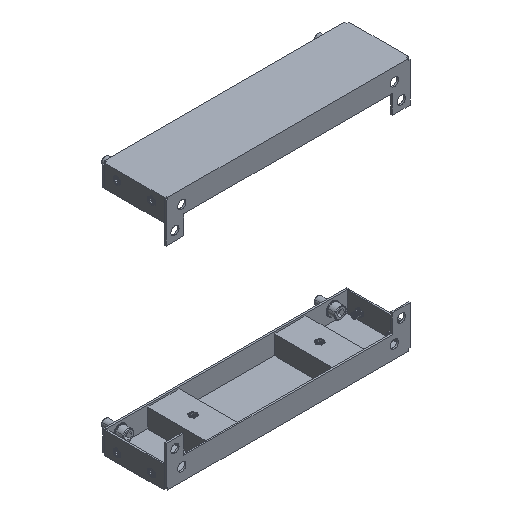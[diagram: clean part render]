
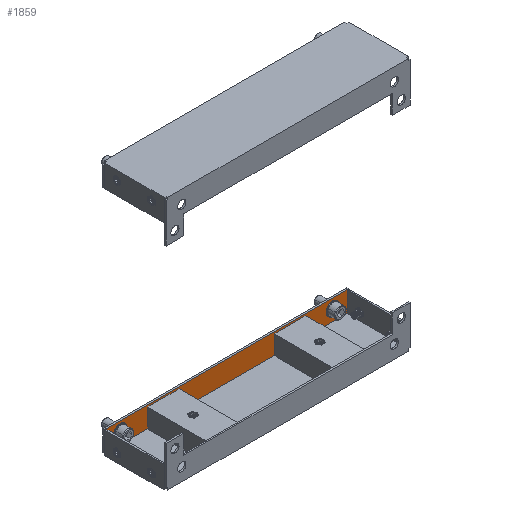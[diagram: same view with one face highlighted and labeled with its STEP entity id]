
A CAD part, isometric view. The second image highlights one B-rep face of the part: STEP entity #1859.
In plain terms, the highlighted planar face has unit normal (0, -1, 0).
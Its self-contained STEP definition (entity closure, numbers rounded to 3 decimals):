
#6 = CIRCLE ( 'NONE', #5628, 6.5 ) ;
#20 = AXIS2_PLACEMENT_3D ( 'NONE', #1726, #6399, #2812 ) ;
#135 = CARTESIAN_POINT ( 'NONE',  ( 167.75, 47.5, 11.7 ) ) ;
#177 = VERTEX_POINT ( 'NONE', #1432 ) ;
#201 = VERTEX_POINT ( 'NONE', #9705 ) ;
#292 = CARTESIAN_POINT ( 'NONE',  ( -189.845, 47.5, 0.402 ) ) ;
#361 = CARTESIAN_POINT ( 'NONE',  ( -192.75, 47.5, 0.6 ) ) ;
#389 = LINE ( 'NONE', #5062, #11581 ) ;
#395 = CARTESIAN_POINT ( 'NONE',  ( 167.75, 47.5, 18.2 ) ) ;
#540 = CARTESIAN_POINT ( 'NONE',  ( -189.896, 47.5, 0.6 ) ) ;
#577 = ORIENTED_EDGE ( 'NONE', *, *, #4431, .T. ) ;
#771 = CARTESIAN_POINT ( 'NONE',  ( -167.75, 47.5, 18.2 ) ) ;
#1030 = CARTESIAN_POINT ( 'NONE',  ( -167.75, 47.5, 11.7 ) ) ;
#1283 = DIRECTION ( 'NONE',  ( 0., 0., 1. ) ) ;
#1432 = CARTESIAN_POINT ( 'NONE',  ( 189.896, 47.5, 0.6 ) ) ;
#1640 = FACE_BOUND ( 'NONE', #7457, .T. ) ;
#1712 = VECTOR ( 'NONE', #12051, 1000. ) ;
#1726 = CARTESIAN_POINT ( 'NONE',  ( 167.75, 47.5, 18.2 ) ) ;
#1755 = LINE ( 'NONE', #9778, #1712 ) ;
#1777 = DIRECTION ( 'NONE',  ( 0., -1., 0. ) ) ;
#1859 = ADVANCED_FACE ( 'NONE', ( #7685, #1640, #13324 ), #5085, .T. ) ;
#2010 = ORIENTED_EDGE ( 'NONE', *, *, #3354, .F. ) ;
#2072 = DIRECTION ( 'NONE',  ( 1., 0., 0. ) ) ;
#2147 = VECTOR ( 'NONE', #2072, 1000. ) ;
#2150 = CARTESIAN_POINT ( 'NONE',  ( 189.845, 47.5, 0.402 ) ) ;
#2430 = ORIENTED_EDGE ( 'NONE', *, *, #3142, .F. ) ;
#2812 = DIRECTION ( 'NONE',  ( 0., 0., -1. ) ) ;
#3142 = EDGE_CURVE ( 'NONE', #177, #5147, #6576, .T. ) ;
#3354 = EDGE_CURVE ( 'NONE', #5147, #15070, #11078, .T. ) ;
#3356 = ORIENTED_EDGE ( 'NONE', *, *, #13869, .T. ) ;
#3614 = EDGE_CURVE ( 'NONE', #7896, #201, #5046, .T. ) ;
#3652 = CARTESIAN_POINT ( 'NONE',  ( 189.773, 47.5, 0. ) ) ;
#3681 = CARTESIAN_POINT ( 'NONE',  ( -189.773, 47.5, 0. ) ) ;
#4000 = DIRECTION ( 'NONE',  ( 0., 0., -1. ) ) ;
#4103 = ORIENTED_EDGE ( 'NONE', *, *, #14702, .F. ) ;
#4132 = DIRECTION ( 'NONE',  ( 0., 1., 0. ) ) ;
#4179 = VECTOR ( 'NONE', #7558, 1000. ) ;
#4279 = DIRECTION ( 'NONE',  ( 0., 0., -1. ) ) ;
#4400 = CARTESIAN_POINT ( 'NONE',  ( -167.75, 47.5, 24.7 ) ) ;
#4431 = EDGE_CURVE ( 'NONE', #177, #7896, #389, .T. ) ;
#4507 = VECTOR ( 'NONE', #13371, 1000. ) ;
#4514 = CARTESIAN_POINT ( 'NONE',  ( 189.896, 47.5, 0.6 ) ) ;
#4524 = VECTOR ( 'NONE', #1283, 1000. ) ;
#4551 = CARTESIAN_POINT ( 'NONE',  ( -167.75, 47.5, 18.2 ) ) ;
#4671 = ORIENTED_EDGE ( 'NONE', *, *, #9797, .F. ) ;
#5046 = LINE ( 'NONE', #10528, #4524 ) ;
#5062 = CARTESIAN_POINT ( 'NONE',  ( 189.896, 47.5, 0.6 ) ) ;
#5085 = PLANE ( 'NONE',  #5701 ) ;
#5147 = VERTEX_POINT ( 'NONE', #3652 ) ;
#5202 = VERTEX_POINT ( 'NONE', #1030 ) ;
#5370 = DIRECTION ( 'NONE',  ( 0., -1., 0. ) ) ;
#5590 = CARTESIAN_POINT ( 'NONE',  ( 189.871, 47.5, 0.501 ) ) ;
#5619 = DIRECTION ( 'NONE',  ( 0., 1., 0. ) ) ;
#5628 = AXIS2_PLACEMENT_3D ( 'NONE', #771, #4132, #4279 ) ;
#5690 = VERTEX_POINT ( 'NONE', #135 ) ;
#5701 = AXIS2_PLACEMENT_3D ( 'NONE', #9828, #5370, #9746 ) ;
#5795 = EDGE_LOOP ( 'NONE', ( #4103, #7385 ) ) ;
#5852 = CARTESIAN_POINT ( 'NONE',  ( -189.896, 47.5, 0.6 ) ) ;
#5922 = VERTEX_POINT ( 'NONE', #13504 ) ;
#6110 = ORIENTED_EDGE ( 'NONE', *, *, #11618, .T. ) ;
#6178 = VERTEX_POINT ( 'NONE', #5852 ) ;
#6192 = AXIS2_PLACEMENT_3D ( 'NONE', #395, #1777, #4000 ) ;
#6321 = ORIENTED_EDGE ( 'NONE', *, *, #11163, .T. ) ;
#6346 = CARTESIAN_POINT ( 'NONE',  ( -189.786, 47.5, 0.101 ) ) ;
#6399 = DIRECTION ( 'NONE',  ( 0., -1., 0. ) ) ;
#6467 = EDGE_LOOP ( 'NONE', ( #10486, #4671, #10734, #3356, #2010, #2430, #577, #8791 ) ) ;
#6576 = B_SPLINE_CURVE_WITH_KNOTS ( 'NONE', 3,
 ( #4514, #5590, #2150, #10250, #11600, #12610 ),
 .UNSPECIFIED., .F., .F.,
 ( 4, 2, 4 ),
 ( 0.002, 0.002, 0.002 ),
 .UNSPECIFIED. ) ;
#7385 = ORIENTED_EDGE ( 'NONE', *, *, #12526, .F. ) ;
#7457 = EDGE_LOOP ( 'NONE', ( #6110, #6321 ) ) ;
#7558 = DIRECTION ( 'NONE',  ( 0., 0., 1. ) ) ;
#7685 = FACE_BOUND ( 'NONE', #5795, .T. ) ;
#7896 = VERTEX_POINT ( 'NONE', #9959 ) ;
#7919 = EDGE_CURVE ( 'NONE', #8621, #201, #13959, .T. ) ;
#8080 = DIRECTION ( 'NONE',  ( 0., 0., -1. ) ) ;
#8084 = CARTESIAN_POINT ( 'NONE',  ( -192.75, 47.5, 32.5 ) ) ;
#8089 = AXIS2_PLACEMENT_3D ( 'NONE', #4551, #5619, #8080 ) ;
#8621 = VERTEX_POINT ( 'NONE', #8084 ) ;
#8649 = CARTESIAN_POINT ( 'NONE',  ( -189.871, 47.5, 0.501 ) ) ;
#8736 = CARTESIAN_POINT ( 'NONE',  ( 0., 47.5, 0. ) ) ;
#8791 = ORIENTED_EDGE ( 'NONE', *, *, #3614, .T. ) ;
#9055 = VERTEX_POINT ( 'NONE', #12487 ) ;
#9631 = CARTESIAN_POINT ( 'NONE',  ( -189.803, 47.5, 0.202 ) ) ;
#9705 = CARTESIAN_POINT ( 'NONE',  ( 192.75, 47.5, 32.5 ) ) ;
#9746 = DIRECTION ( 'NONE',  ( 0., 0., -1. ) ) ;
#9778 = CARTESIAN_POINT ( 'NONE',  ( -189.896, 47.5, 0.6 ) ) ;
#9797 = EDGE_CURVE ( 'NONE', #9055, #8621, #13187, .T. ) ;
#9828 = CARTESIAN_POINT ( 'NONE',  ( 0., 47.5, 0. ) ) ;
#9959 = CARTESIAN_POINT ( 'NONE',  ( 192.75, 47.5, 0.6 ) ) ;
#10250 = CARTESIAN_POINT ( 'NONE',  ( 189.803, 47.5, 0.202 ) ) ;
#10486 = ORIENTED_EDGE ( 'NONE', *, *, #7919, .F. ) ;
#10528 = CARTESIAN_POINT ( 'NONE',  ( 192.75, 47.5, 0.6 ) ) ;
#10710 = EDGE_CURVE ( 'NONE', #6178, #9055, #1755, .T. ) ;
#10734 = ORIENTED_EDGE ( 'NONE', *, *, #10710, .F. ) ;
#11078 = LINE ( 'NONE', #8736, #4507 ) ;
#11163 = EDGE_CURVE ( 'NONE', #12101, #5202, #6, .T. ) ;
#11230 = B_SPLINE_CURVE_WITH_KNOTS ( 'NONE', 3,
 ( #540, #8649, #292, #9631, #6346, #11983 ),
 .UNSPECIFIED., .F., .F.,
 ( 4, 2, 4 ),
 ( 0.002, 0.002, 0.002 ),
 .UNSPECIFIED. ) ;
#11248 = CIRCLE ( 'NONE', #20, 6.5 ) ;
#11581 = VECTOR ( 'NONE', #13073, 1000. ) ;
#11600 = CARTESIAN_POINT ( 'NONE',  ( 189.786, 47.5, 0.101 ) ) ;
#11618 = EDGE_CURVE ( 'NONE', #5202, #12101, #14634, .T. ) ;
#11983 = CARTESIAN_POINT ( 'NONE',  ( -189.773, 47.5, 0. ) ) ;
#12051 = DIRECTION ( 'NONE',  ( -1., 0., 0. ) ) ;
#12101 = VERTEX_POINT ( 'NONE', #4400 ) ;
#12487 = CARTESIAN_POINT ( 'NONE',  ( -192.75, 47.5, 0.6 ) ) ;
#12526 = EDGE_CURVE ( 'NONE', #5922, #5690, #11248, .T. ) ;
#12610 = CARTESIAN_POINT ( 'NONE',  ( 189.773, 47.5, 0. ) ) ;
#13073 = DIRECTION ( 'NONE',  ( 1., 0., 0. ) ) ;
#13187 = LINE ( 'NONE', #361, #4179 ) ;
#13324 = FACE_OUTER_BOUND ( 'NONE', #6467, .T. ) ;
#13371 = DIRECTION ( 'NONE',  ( -1., 0., 0. ) ) ;
#13491 = CIRCLE ( 'NONE', #6192, 6.5 ) ;
#13504 = CARTESIAN_POINT ( 'NONE',  ( 167.75, 47.5, 24.7 ) ) ;
#13869 = EDGE_CURVE ( 'NONE', #6178, #15070, #11230, .T. ) ;
#13959 = LINE ( 'NONE', #15024, #2147 ) ;
#14634 = CIRCLE ( 'NONE', #8089, 6.5 ) ;
#14702 = EDGE_CURVE ( 'NONE', #5690, #5922, #13491, .T. ) ;
#15024 = CARTESIAN_POINT ( 'NONE',  ( 190.25, 47.5, 32.5 ) ) ;
#15070 = VERTEX_POINT ( 'NONE', #3681 ) ;
